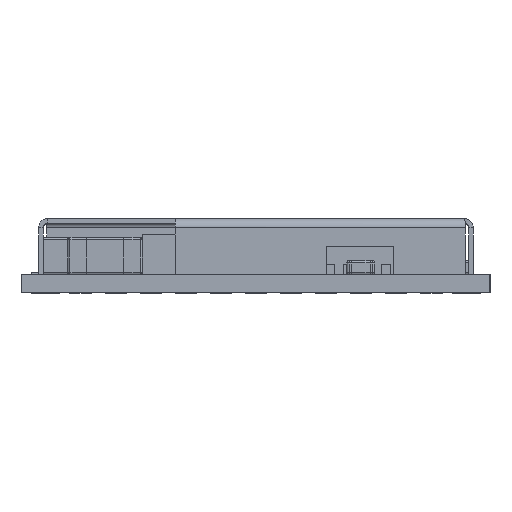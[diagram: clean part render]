
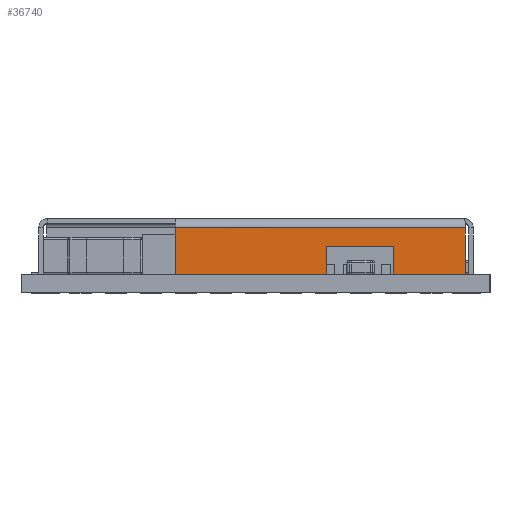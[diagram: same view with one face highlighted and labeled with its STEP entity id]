
A CAD part, left-side view. The second image highlights one B-rep face of the part: STEP entity #36740.
In plain terms, the highlighted planar face has unit normal (-1, 0, 0).
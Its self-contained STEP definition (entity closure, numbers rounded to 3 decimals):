
#1078 = LINE ( 'NONE', #86161, #118122 ) ;
#4360 = DIRECTION ( 'NONE',  ( 1., 0., 0. ) ) ;
#6867 = EDGE_CURVE ( 'NONE', #172255, #141342, #54188, .T. ) ;
#12985 = DIRECTION ( 'NONE',  ( 0., -1., 0. ) ) ;
#22343 = CARTESIAN_POINT ( 'NONE',  ( 0.353, 3.5, 0.6 ) ) ;
#24601 = VECTOR ( 'NONE', #85060, 1000. ) ;
#25883 = VECTOR ( 'NONE', #128046, 1000. ) ;
#26893 = LINE ( 'NONE', #69459, #49994 ) ;
#36740 = ADVANCED_FACE ( 'NONE', ( #255921 ), #88089, .F. ) ;
#37517 = ORIENTED_EDGE ( 'NONE', *, *, #6867, .T. ) ;
#40330 = EDGE_LOOP ( 'NONE', ( #97586, #99831, #47771, #181175, #234796, #91942, #37517, #122639 ) ) ;
#44224 = LINE ( 'NONE', #22343, #25883 ) ;
#47771 = ORIENTED_EDGE ( 'NONE', *, *, #240278, .T. ) ;
#49994 = VECTOR ( 'NONE', #146828, 1000. ) ;
#50318 = CARTESIAN_POINT ( 'NONE',  ( 0.353, 0.524, 1.2 ) ) ;
#54188 = LINE ( 'NONE', #139319, #253906 ) ;
#59935 = VERTEX_POINT ( 'NONE', #71592 ) ;
#64032 = CARTESIAN_POINT ( 'NONE',  ( 0.353, 2.061, 0. ) ) ;
#64840 = CARTESIAN_POINT ( 'NONE',  ( 0.353, 2.061, 0. ) ) ;
#67763 = AXIS2_PLACEMENT_3D ( 'NONE', #210577, #4360, #170611 ) ;
#69459 = CARTESIAN_POINT ( 'NONE',  ( 0.353, 0.353, 1. ) ) ;
#71592 = CARTESIAN_POINT ( 'NONE',  ( 0.353, 6.725, 1. ) ) ;
#77636 = EDGE_CURVE ( 'NONE', #206115, #59935, #26893, .T. ) ;
#81704 = EDGE_CURVE ( 'NONE', #125078, #247982, #84150, .T. ) ;
#84150 = LINE ( 'NONE', #64840, #143540 ) ;
#85060 = DIRECTION ( 'NONE',  ( 0., 0., -1. ) ) ;
#86161 = CARTESIAN_POINT ( 'NONE',  ( 0.353, 0.353, 0. ) ) ;
#88089 = PLANE ( 'NONE',  #67763 ) ;
#89061 = EDGE_CURVE ( 'NONE', #172255, #59935, #236553, .T. ) ;
#90179 = EDGE_CURVE ( 'NONE', #106504, #206115, #102021, .T. ) ;
#91942 = ORIENTED_EDGE ( 'NONE', *, *, #89061, .F. ) ;
#92012 = DIRECTION ( 'NONE',  ( 0., 0., 1. ) ) ;
#95382 = CARTESIAN_POINT ( 'NONE',  ( 0.353, 0.524, 1. ) ) ;
#97586 = ORIENTED_EDGE ( 'NONE', *, *, #181169, .F. ) ;
#98547 = VECTOR ( 'NONE', #242803, 1000. ) ;
#99831 = ORIENTED_EDGE ( 'NONE', *, *, #81704, .F. ) ;
#102021 = LINE ( 'NONE', #50318, #98547 ) ;
#102083 = VECTOR ( 'NONE', #92012, 1000. ) ;
#102967 = CARTESIAN_POINT ( 'NONE',  ( 0.353, 3.5, 0. ) ) ;
#104309 = LINE ( 'NONE', #102967, #24601 ) ;
#106504 = VERTEX_POINT ( 'NONE', #270722 ) ;
#106888 = CARTESIAN_POINT ( 'NONE',  ( 0.353, 3.5, 0. ) ) ;
#115560 = CARTESIAN_POINT ( 'NONE',  ( 0.353, 6.725, 0. ) ) ;
#118122 = VECTOR ( 'NONE', #170008, 1000. ) ;
#122639 = ORIENTED_EDGE ( 'NONE', *, *, #139073, .F. ) ;
#125078 = VERTEX_POINT ( 'NONE', #64032 ) ;
#128046 = DIRECTION ( 'NONE',  ( 0., 1., 0. ) ) ;
#139073 = EDGE_CURVE ( 'NONE', #186194, #141342, #104309, .T. ) ;
#139319 = CARTESIAN_POINT ( 'NONE',  ( 0.353, 0.353, 0. ) ) ;
#141342 = VERTEX_POINT ( 'NONE', #106888 ) ;
#143540 = VECTOR ( 'NONE', #207953, 1000. ) ;
#146828 = DIRECTION ( 'NONE',  ( 0., 1., 0. ) ) ;
#170008 = DIRECTION ( 'NONE',  ( 0., -1., 0. ) ) ;
#170611 = DIRECTION ( 'NONE',  ( 0., 0., -1. ) ) ;
#172255 = VERTEX_POINT ( 'NONE', #115560 ) ;
#178706 = CARTESIAN_POINT ( 'NONE',  ( 0.353, 6.725, 0. ) ) ;
#181169 = EDGE_CURVE ( 'NONE', #247982, #186194, #44224, .T. ) ;
#181175 = ORIENTED_EDGE ( 'NONE', *, *, #90179, .T. ) ;
#183389 = CARTESIAN_POINT ( 'NONE',  ( 0.353, 3.5, 0.6 ) ) ;
#186194 = VERTEX_POINT ( 'NONE', #183389 ) ;
#206115 = VERTEX_POINT ( 'NONE', #95382 ) ;
#207953 = DIRECTION ( 'NONE',  ( 0., 0., 1. ) ) ;
#210577 = CARTESIAN_POINT ( 'NONE',  ( 0.353, 0.353, 1.2 ) ) ;
#234796 = ORIENTED_EDGE ( 'NONE', *, *, #77636, .T. ) ;
#236553 = LINE ( 'NONE', #178706, #102083 ) ;
#240278 = EDGE_CURVE ( 'NONE', #125078, #106504, #1078, .T. ) ;
#242803 = DIRECTION ( 'NONE',  ( 0., 0., 1. ) ) ;
#247982 = VERTEX_POINT ( 'NONE', #261725 ) ;
#253906 = VECTOR ( 'NONE', #12985, 1000. ) ;
#255921 = FACE_OUTER_BOUND ( 'NONE', #40330, .T. ) ;
#261725 = CARTESIAN_POINT ( 'NONE',  ( 0.353, 2.061, 0.6 ) ) ;
#270722 = CARTESIAN_POINT ( 'NONE',  ( 0.353, 0.524, 0. ) ) ;
